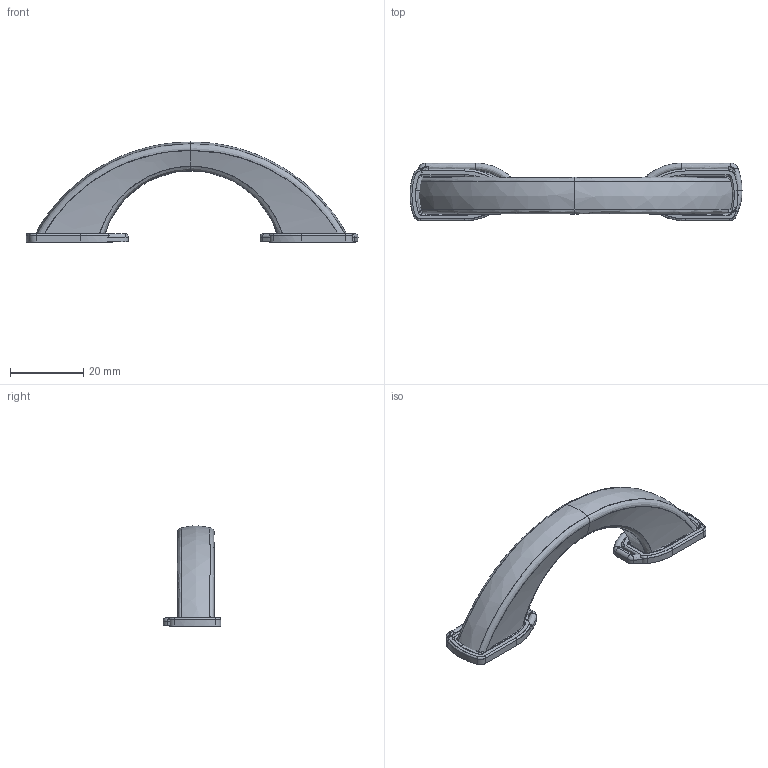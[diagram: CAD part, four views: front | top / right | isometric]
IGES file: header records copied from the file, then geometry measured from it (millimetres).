
Start section: C
Global section: file name: 0570-90.igs; native system: By Siemens PLM Incorporated; preprocessor: XPlus GENERIC/IGES 16.0.42; author: Author; organization: Title; date: 20260104.145900; units: millimetre
Bounding box: 90.58 x 15.74 x 27.29 mm (x, y, z)
Surface area: 6988.7 mm2 (no closed solid volume)
Topology: 0 solids, 0 shells, 182 faces, 864 edges, 864 vertices
Faces by surface type: bspline 182
